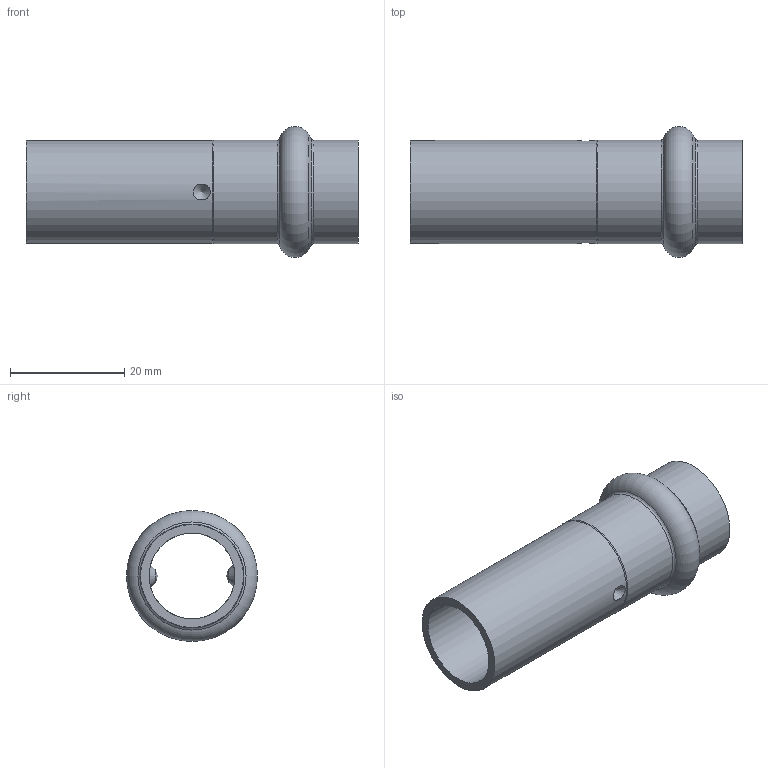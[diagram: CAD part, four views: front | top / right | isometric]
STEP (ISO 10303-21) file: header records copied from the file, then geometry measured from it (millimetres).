
FILE_DESCRIPTION((''),'2;1');
FILE_NAME('G:\Technics\CAD\Bauteile\018\692431815(0).stp','2008-02-14T14:18:11',('herberg'),(''),'Autodesk Inventor 2008','Autodesk Inventor 2008','');
FILE_SCHEMA(('AUTOMOTIVE_DESIGN { 1 0 10303 214 1 1 1 1 }'));
Length unit declared in the file: millimetre
Products named in the file (1): 692431815(0)
Bounding box: 58 x 22.89 x 22.89 mm (x, y, z)
Volume: 4806.4 mm3; surface area: 6564.1 mm2
Topology: 1 solids, 1 shells, 24 faces, 59 edges, 36 vertices
Faces by surface type: cone 8, cylinder 6, bspline 4, sphere 2, torus 2, plane 2
Full cylindrical faces by diameter (mm): 15 x1, 15.15 x2, 18 x1, 18.15 x2
Entity records: 924 total; most frequent: CARTESIAN_POINT 489, DIRECTION 84, ORIENTED_EDGE 58, EDGE_LOOP 46, AXIS2_PLACEMENT_3D 42, EDGE_CURVE 29, VERTEX_POINT 27, FACE_OUTER_BOUND 24
